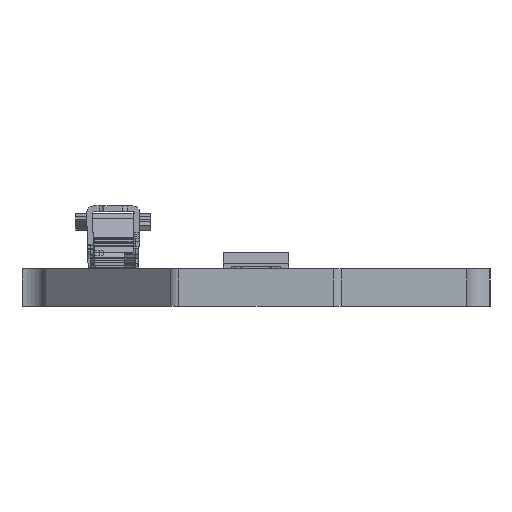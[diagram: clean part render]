
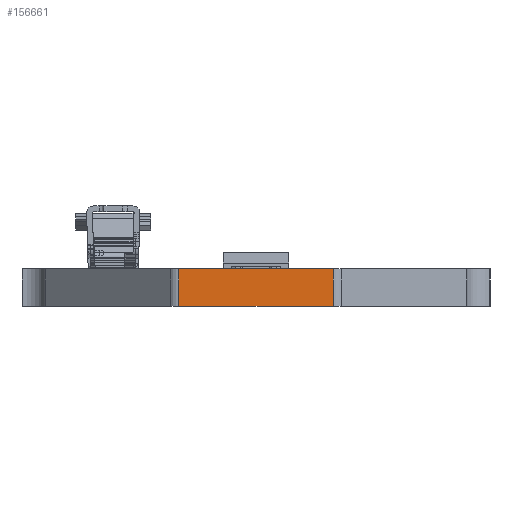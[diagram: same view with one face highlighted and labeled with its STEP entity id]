
A CAD part, left-side view. The second image highlights one B-rep face of the part: STEP entity #156661.
In plain terms, the highlighted planar face has unit normal (-1, 0, 0).
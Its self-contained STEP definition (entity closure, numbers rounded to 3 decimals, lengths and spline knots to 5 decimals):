
#8188=FACE_OUTER_BOUND('',#16120,.T.);
#16120=EDGE_LOOP('',(#129385,#129386,#129387,#129388));
#19227=LINE('',#213252,#38011);
#33937=LINE('',#244390,#52721);
#33938=LINE('',#244393,#52722);
#33939=LINE('',#244394,#52723);
#38011=VECTOR('',#173911,0.3937);
#52721=VECTOR('',#200703,0.3937);
#52722=VECTOR('',#200706,0.3937);
#52723=VECTOR('',#200707,0.3937);
#59366=VERTEX_POINT('',#213249);
#59367=VERTEX_POINT('',#213251);
#69753=VERTEX_POINT('',#244386);
#69755=VERTEX_POINT('',#244392);
#74510=EDGE_CURVE('',#59366,#59367,#19227,.T.);
#90032=EDGE_CURVE('',#59367,#69753,#33937,.T.);
#90033=EDGE_CURVE('',#69755,#59366,#33938,.T.);
#90034=EDGE_CURVE('',#69753,#69755,#33939,.T.);
#129385=ORIENTED_EDGE('',*,*,#90032,.F.);
#129386=ORIENTED_EDGE('',*,*,#74510,.F.);
#129387=ORIENTED_EDGE('',*,*,#90033,.F.);
#129388=ORIENTED_EDGE('',*,*,#90034,.F.);
#141955=PLANE('',#166095);
#156661=ADVANCED_FACE('',(#8188),#141955,.T.);
#166095=AXIS2_PLACEMENT_3D('',#244391,#200704,#200705);
#173911=DIRECTION('',(0.,-1.,0.));
#200703=DIRECTION('',(0.,0.,-1.));
#200704=DIRECTION('center_axis',(-1.,0.,0.));
#200705=DIRECTION('ref_axis',(0.,1.,0.));
#200706=DIRECTION('',(0.,0.,1.));
#200707=DIRECTION('',(0.,1.,0.));
#213249=CARTESIAN_POINT('',(0.,0.52334,0.));
#213251=CARTESIAN_POINT('',(0.,0.26406,0.));
#213252=CARTESIAN_POINT('',(0.,0.5315,0.));
#244386=CARTESIAN_POINT('',(0.,0.26406,-0.06299));
#244390=CARTESIAN_POINT('',(0.,0.26406,0.));
#244391=CARTESIAN_POINT('Origin',(0.,0.25591,
0.));
#244392=CARTESIAN_POINT('',(0.,0.52334,-0.06299));
#244393=CARTESIAN_POINT('',(0.,0.52334,0.));
#244394=CARTESIAN_POINT('',(0.,0.5315,-0.06299));
